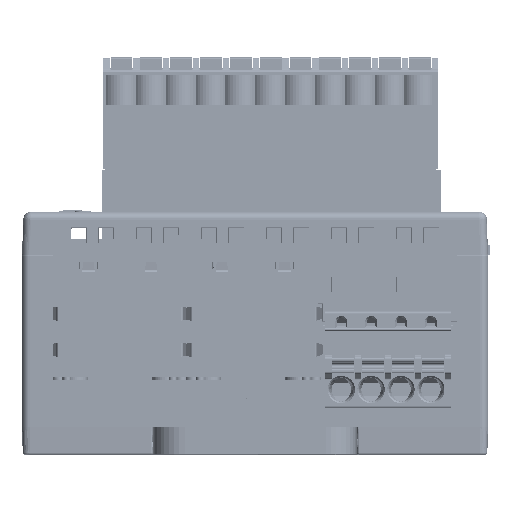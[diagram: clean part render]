
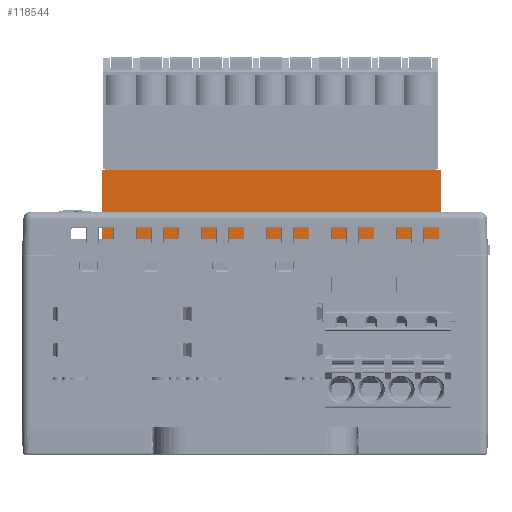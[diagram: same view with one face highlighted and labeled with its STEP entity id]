
A CAD part, front view. The second image highlights one B-rep face of the part: STEP entity #118544.
In plain terms, the highlighted planar face has unit normal (0, -1, 0).
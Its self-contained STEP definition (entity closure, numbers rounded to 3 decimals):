
#21883=DIRECTION('',(1.,0.,0.));
#21884=VECTOR('',#21883,43.3);
#21885=CARTESIAN_POINT('',(-19.55,-19.15,27.5));
#21886=LINE('',#21885,#21884);
#24319=DIRECTION('',(0.,0.,-1.));
#24320=VECTOR('',#24319,8.8);
#24321=CARTESIAN_POINT('',(23.75,-19.15,36.3));
#24322=LINE('',#24321,#24320);
#24327=DIRECTION('',(0.,0.,-1.));
#24328=VECTOR('',#24327,8.8);
#24329=CARTESIAN_POINT('',(-19.55,-19.15,36.3));
#24330=LINE('',#24329,#24328);
#24331=DIRECTION('',(-1.,0.,0.));
#24332=VECTOR('',#24331,43.3);
#24333=CARTESIAN_POINT('',(23.75,-19.15,36.3));
#24334=LINE('',#24333,#24332);
#58045=CARTESIAN_POINT('',(-19.55,-19.15,36.3));
#58047=VERTEX_POINT('',#58045);
#58051=CARTESIAN_POINT('',(23.75,-19.15,36.3));
#58052=VERTEX_POINT('',#58051);
#72637=CARTESIAN_POINT('',(-19.55,-19.15,27.5));
#72639=VERTEX_POINT('',#72637);
#72640=CARTESIAN_POINT('',(23.75,-19.15,27.5));
#72641=VERTEX_POINT('',#72640);
#118532=CARTESIAN_POINT('',(2.1,-19.15,31.7));
#118533=DIRECTION('',(0.,1.,0.));
#118534=DIRECTION('',(1.,0.,0.));
#118535=AXIS2_PLACEMENT_3D('',#118532,#118533,#118534);
#118536=PLANE('',#118535);
#118537=ORIENTED_EDGE('',*,*,#114689,.F.);
#118538=ORIENTED_EDGE('',*,*,#118478,.F.);
#118540=ORIENTED_EDGE('',*,*,#118539,.F.);
#118541=ORIENTED_EDGE('',*,*,#118517,.T.);
#118542=EDGE_LOOP('',(#118537,#118538,#118540,#118541));
#118543=FACE_OUTER_BOUND('',#118542,.F.);
#118544=ADVANCED_FACE('',(#118543),#118536,.F.);
#114689=EDGE_CURVE('',#72639,#72641,#21886,.T.);
#118478=EDGE_CURVE('',#58047,#72639,#24330,.T.);
#118517=EDGE_CURVE('',#58052,#72641,#24322,.T.);
#118539=EDGE_CURVE('',#58052,#58047,#24334,.T.);
